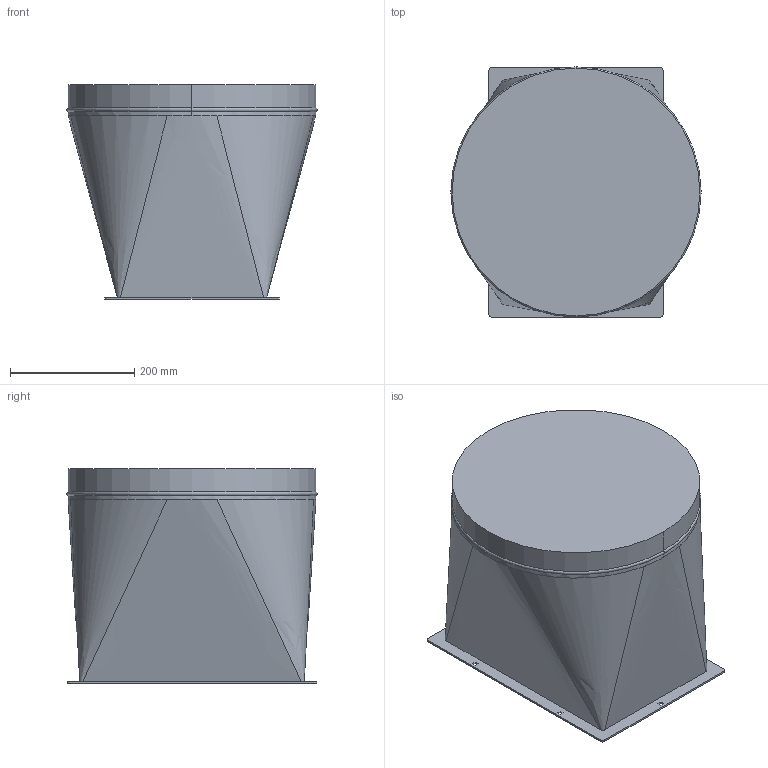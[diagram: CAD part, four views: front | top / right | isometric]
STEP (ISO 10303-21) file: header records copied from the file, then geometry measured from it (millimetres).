
FILE_DESCRIPTION((''),'2;1');
FILE_NAME('FBO_400','2023-01-24T15:25:29',('Tomas Bellgran'),(''),'CREO PARAMETRIC BY PTC INC, 2018260','CREO PARAMETRIC BY PTC INC, 2018260','');
FILE_SCHEMA(('AUTOMOTIVE_DESIGN { 1 0 10303 214 1 1 1 1 }'));
Length unit declared in the file: millimetre
Products named in the file (1): FBO_400
Bounding box: 402 x 402 x 344.3 mm (x, y, z)
Volume: 38565576.5 mm3; surface area: 691376.8 mm2
Topology: 1 solids, 1 shells, 49 faces, 148 edges, 102 vertices
Faces by surface type: plane 31, bspline 8, cylinder 8, torus 2
Entity records: 2748 total; most frequent: CARTESIAN_POINT 1210, ORIENTED_EDGE 296, DIRECTION 271, EDGE_CURVE 148, VECTOR 104, LINE 104, VERTEX_POINT 102, AXIS2_PLACEMENT_3D 82
